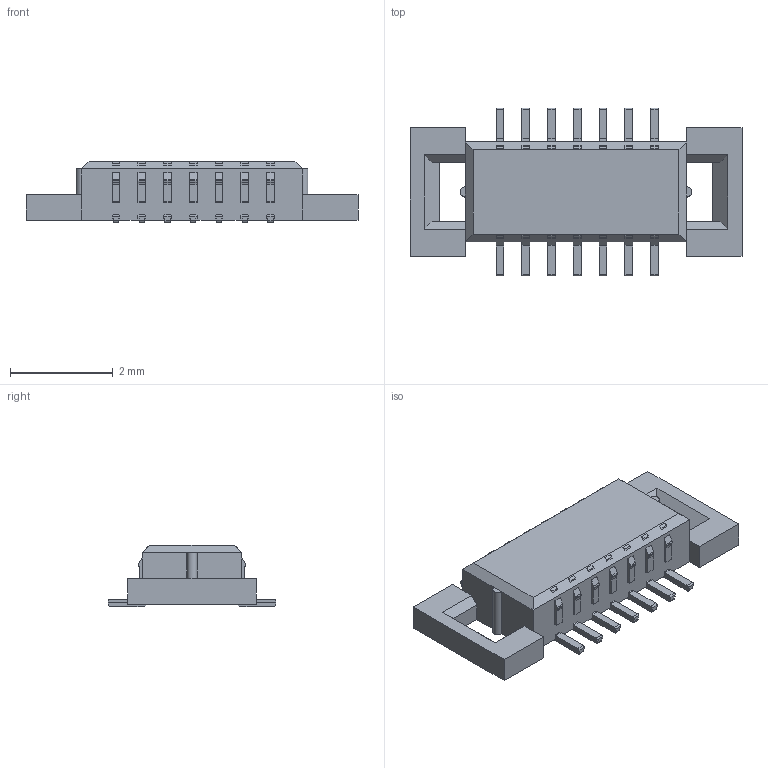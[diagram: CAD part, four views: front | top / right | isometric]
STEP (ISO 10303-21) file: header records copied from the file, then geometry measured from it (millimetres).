
FILE_DESCRIPTION(('OneSpaceDesigner STEP Export'),'2;1');
FILE_NAME('50168-01401-001.stp','2010-02-03T16:04:16',(''),(''),'OneSpace Designer STEP processor for AP214 (Solid Model)','OneSpace Designer 13.01 05-Feb-2005 (C) CoCreate Software GmbH','');
FILE_SCHEMA(('AUTOMOTIVE_DESIGN { 1 0 10303 214 1 1 1 1 }'));
Length unit declared in the file: millimetre
Products named in the file (1): 50168-01401-001
Bounding box: 6.45 x 3.26 x 1.2 mm (x, y, z)
Volume: 11.7 mm3; surface area: 51.4 mm2
Topology: 1 solids, 1 shells, 446 faces, 1214 edges, 796 vertices
Faces by surface type: plane 318, cylinder 128
Entity records: 13346 total; most frequent: ORIENTED_EDGE 2428, CARTESIAN_POINT 2317, DIRECTION 2126, EDGE_CURVE 1214, VECTOR 916, LINE 916, VERTEX_POINT 796, AXIS2_PLACEMENT_3D 605
